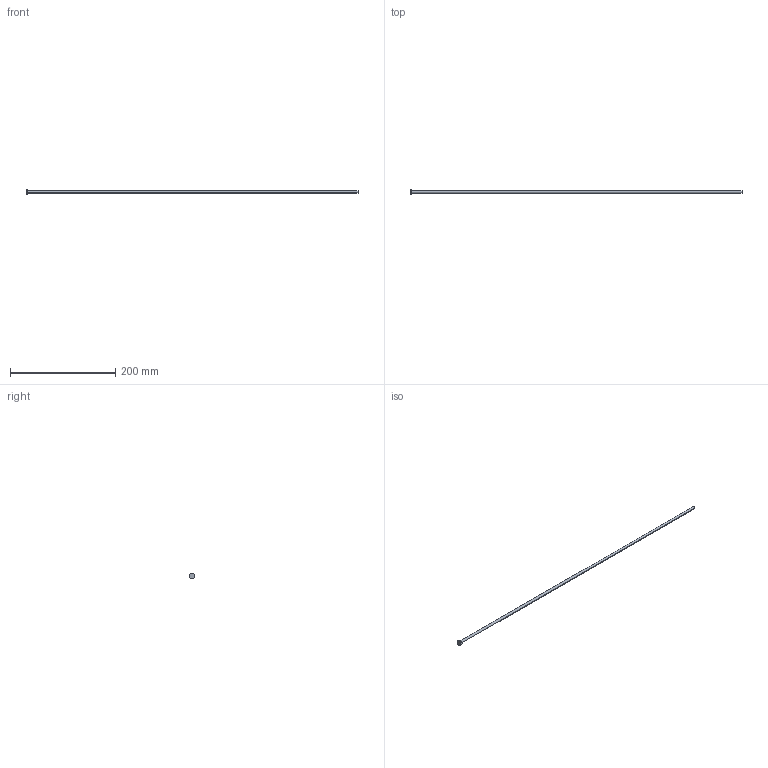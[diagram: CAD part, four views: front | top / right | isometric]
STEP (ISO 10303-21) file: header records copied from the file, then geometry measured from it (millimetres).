
FILE_DESCRIPTION (( 'STEP AP214' ), '1' );
FILE_NAME ('A-5x630.STEP', '2020-05-29T15:35:37', ( 'August' ), ( '' ), 'SwSTEP 2.0', 'SolidWorks 2018', '' );
FILE_SCHEMA (( 'AUTOMOTIVE_DESIGN' ));
Length unit declared in the file: millimetre
Products named in the file (1): A-5x630
Bounding box: 630 x 10 x 10 mm (x, y, z)
Volume: 12547 mm3; surface area: 10098.2 mm2
Topology: 1 solids, 1 shells, 9 faces, 16 edges, 10 vertices
Faces by surface type: cylinder 4, plane 3, torus 2
Entity records: 260 total; most frequent: DIRECTION 48, CARTESIAN_POINT 36, ORIENTED_EDGE 32, AXIS2_PLACEMENT_3D 22, EDGE_CURVE 16, CIRCLE 12, VERTEX_POINT 10, EDGE_LOOP 10
